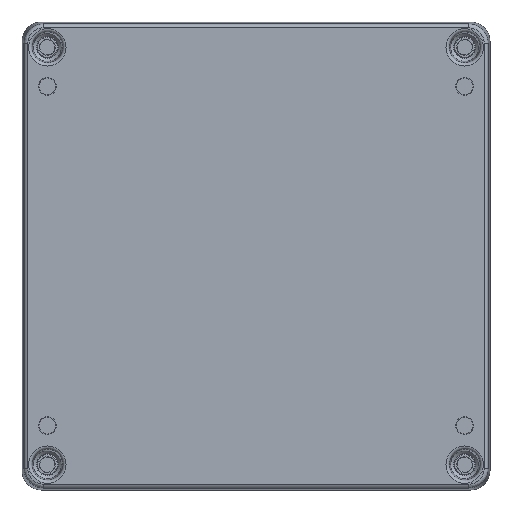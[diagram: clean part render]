
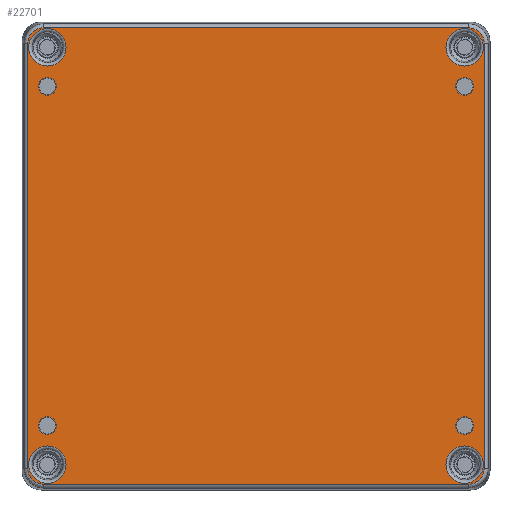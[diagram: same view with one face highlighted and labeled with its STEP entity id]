
A CAD part, front view. The second image highlights one B-rep face of the part: STEP entity #22701.
In plain terms, the highlighted planar face has unit normal (0, -1, 0).
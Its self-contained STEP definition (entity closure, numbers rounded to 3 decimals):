
#127=FACE_BOUND('',#6371,.T.);
#128=FACE_BOUND('',#6372,.T.);
#129=FACE_BOUND('',#6373,.T.);
#130=FACE_BOUND('',#6374,.T.);
#131=FACE_BOUND('',#6375,.T.);
#132=FACE_BOUND('',#6376,.T.);
#133=FACE_BOUND('',#6377,.T.);
#134=FACE_BOUND('',#6378,.T.);
#773=ELLIPSE('',#24311,4.001,4.);
#774=ELLIPSE('',#24312,4.001,4.);
#775=ELLIPSE('',#24313,4.001,4.);
#776=ELLIPSE('',#24314,4.001,4.);
#871=LINE('',#39633,#2578);
#872=LINE('',#39637,#2579);
#873=LINE('',#39641,#2580);
#874=LINE('',#39645,#2581);
#2578=VECTOR('',#26580,10.);
#2579=VECTOR('',#26583,10.);
#2580=VECTOR('',#26586,10.);
#2581=VECTOR('',#26589,10.);
#4267=PLANE('',#24310);
#4977=FACE_OUTER_BOUND('',#6370,.T.);
#6370=EDGE_LOOP('',(#15824,#15825,#15826,#15827,#15828,#15829,#15830,#15831));
#6371=EDGE_LOOP('',(#15832));
#6372=EDGE_LOOP('',(#15833));
#6373=EDGE_LOOP('',(#15834));
#6374=EDGE_LOOP('',(#15835));
#6375=EDGE_LOOP('',(#15836));
#6376=EDGE_LOOP('',(#15837));
#6377=EDGE_LOOP('',(#15838));
#6378=EDGE_LOOP('',(#15839));
#7902=CIRCLE('',#24308,4.787);
#7904=CIRCLE('',#24315,4.787);
#7905=CIRCLE('',#24316,4.787);
#7906=CIRCLE('',#24317,2.258);
#7907=CIRCLE('',#24318,2.258);
#7908=CIRCLE('',#24319,2.258);
#7909=CIRCLE('',#24320,2.258);
#7910=CIRCLE('',#24321,4.787);
#9760=VERTEX_POINT('',#39627);
#9761=VERTEX_POINT('',#39631);
#9762=VERTEX_POINT('',#39632);
#9763=VERTEX_POINT('',#39634);
#9764=VERTEX_POINT('',#39636);
#9765=VERTEX_POINT('',#39638);
#9766=VERTEX_POINT('',#39640);
#9767=VERTEX_POINT('',#39642);
#9768=VERTEX_POINT('',#39644);
#9769=VERTEX_POINT('',#39647);
#9770=VERTEX_POINT('',#39649);
#9771=VERTEX_POINT('',#39651);
#9772=VERTEX_POINT('',#39653);
#9773=VERTEX_POINT('',#39655);
#9774=VERTEX_POINT('',#39657);
#9775=VERTEX_POINT('',#39659);
#12125=EDGE_CURVE('',#9760,#9760,#7902,.T.);
#12127=EDGE_CURVE('',#9761,#9762,#871,.T.);
#12128=EDGE_CURVE('',#9763,#9761,#773,.T.);
#12129=EDGE_CURVE('',#9764,#9763,#872,.T.);
#12130=EDGE_CURVE('',#9765,#9764,#774,.T.);
#12131=EDGE_CURVE('',#9766,#9765,#873,.T.);
#12132=EDGE_CURVE('',#9767,#9766,#775,.T.);
#12133=EDGE_CURVE('',#9768,#9767,#874,.T.);
#12134=EDGE_CURVE('',#9762,#9768,#776,.T.);
#12135=EDGE_CURVE('',#9769,#9769,#7904,.T.);
#12136=EDGE_CURVE('',#9770,#9770,#7905,.T.);
#12137=EDGE_CURVE('',#9771,#9771,#7906,.F.);
#12138=EDGE_CURVE('',#9772,#9772,#7907,.F.);
#12139=EDGE_CURVE('',#9773,#9773,#7908,.F.);
#12140=EDGE_CURVE('',#9774,#9774,#7909,.F.);
#12141=EDGE_CURVE('',#9775,#9775,#7910,.T.);
#15824=ORIENTED_EDGE('',*,*,#12127,.F.);
#15825=ORIENTED_EDGE('',*,*,#12128,.F.);
#15826=ORIENTED_EDGE('',*,*,#12129,.F.);
#15827=ORIENTED_EDGE('',*,*,#12130,.F.);
#15828=ORIENTED_EDGE('',*,*,#12131,.F.);
#15829=ORIENTED_EDGE('',*,*,#12132,.F.);
#15830=ORIENTED_EDGE('',*,*,#12133,.F.);
#15831=ORIENTED_EDGE('',*,*,#12134,.F.);
#15832=ORIENTED_EDGE('',*,*,#12135,.F.);
#15833=ORIENTED_EDGE('',*,*,#12136,.F.);
#15834=ORIENTED_EDGE('',*,*,#12137,.T.);
#15835=ORIENTED_EDGE('',*,*,#12138,.T.);
#15836=ORIENTED_EDGE('',*,*,#12139,.T.);
#15837=ORIENTED_EDGE('',*,*,#12140,.T.);
#15838=ORIENTED_EDGE('',*,*,#12141,.F.);
#15839=ORIENTED_EDGE('',*,*,#12125,.F.);
#22701=ADVANCED_FACE('',(#4977,#127,#128,#129,#130,#131,#132,#133,#134),
#4267,.T.);
#24308=AXIS2_PLACEMENT_3D('',#39628,#26574,#26575);
#24310=AXIS2_PLACEMENT_3D('',#39630,#26578,#26579);
#24311=AXIS2_PLACEMENT_3D('',#39635,#26581,#26582);
#24312=AXIS2_PLACEMENT_3D('',#39639,#26584,#26585);
#24313=AXIS2_PLACEMENT_3D('',#39643,#26587,#26588);
#24314=AXIS2_PLACEMENT_3D('',#39646,#26590,#26591);
#24315=AXIS2_PLACEMENT_3D('',#39648,#26592,#26593);
#24316=AXIS2_PLACEMENT_3D('',#39650,#26594,#26595);
#24317=AXIS2_PLACEMENT_3D('',#39652,#26596,#26597);
#24318=AXIS2_PLACEMENT_3D('',#39654,#26598,#26599);
#24319=AXIS2_PLACEMENT_3D('',#39656,#26600,#26601);
#24320=AXIS2_PLACEMENT_3D('',#39658,#26602,#26603);
#24321=AXIS2_PLACEMENT_3D('',#39660,#26604,#26605);
#26574=DIRECTION('center_axis',(0.,-1.,0.));
#26575=DIRECTION('ref_axis',(-1.,0.,0.));
#26578=DIRECTION('center_axis',(0.,-1.,0.));
#26579=DIRECTION('ref_axis',(0.,0.,-1.));
#26580=DIRECTION('',(1.,0.,0.));
#26581=DIRECTION('center_axis',(0.,1.,0.));
#26582=DIRECTION('ref_axis',(-0.707,0.,0.707));
#26583=DIRECTION('',(0.,0.,1.));
#26584=DIRECTION('center_axis',(0.,1.,0.));
#26585=DIRECTION('ref_axis',(-0.707,0.,-0.707));
#26586=DIRECTION('',(-1.,0.,0.));
#26587=DIRECTION('center_axis',(0.,1.,0.));
#26588=DIRECTION('ref_axis',(0.707,0.,-0.707));
#26589=DIRECTION('',(0.,0.,-1.));
#26590=DIRECTION('center_axis',(0.,1.,0.));
#26591=DIRECTION('ref_axis',(0.707,0.,0.707));
#26592=DIRECTION('center_axis',(0.,-1.,0.));
#26593=DIRECTION('ref_axis',(-1.,0.,0.));
#26594=DIRECTION('center_axis',(0.,-1.,0.));
#26595=DIRECTION('ref_axis',(1.,0.,0.));
#26596=DIRECTION('center_axis',(0.,-1.,0.));
#26597=DIRECTION('ref_axis',(-1.,0.,0.));
#26598=DIRECTION('center_axis',(0.,-1.,0.));
#26599=DIRECTION('ref_axis',(1.,0.,0.));
#26600=DIRECTION('center_axis',(0.,-1.,0.));
#26601=DIRECTION('ref_axis',(-1.,0.,0.));
#26602=DIRECTION('center_axis',(0.,-1.,0.));
#26603=DIRECTION('ref_axis',(1.,0.,0.));
#26604=DIRECTION('center_axis',(0.,-1.,0.));
#26605=DIRECTION('ref_axis',(1.,0.,0.));
#39627=CARTESIAN_POINT('',(-53.5,-30.05,-58.287));
#39628=CARTESIAN_POINT('Origin',(-53.5,-30.05,-53.5));
#39630=CARTESIAN_POINT('Origin',(0.,-30.05,0.));
#39631=CARTESIAN_POINT('',(-54.493,-30.05,58.493));
#39632=CARTESIAN_POINT('',(54.493,-30.05,58.493));
#39633=CARTESIAN_POINT('',(-30.,-30.05,58.493));
#39634=CARTESIAN_POINT('',(-58.493,-30.05,54.493));
#39635=CARTESIAN_POINT('Origin',(-54.492,-30.05,54.492));
#39636=CARTESIAN_POINT('',(-58.493,-30.05,-54.493));
#39637=CARTESIAN_POINT('',(-58.493,-30.05,-30.));
#39638=CARTESIAN_POINT('',(-54.493,-30.05,-58.493));
#39639=CARTESIAN_POINT('Origin',(-54.492,-30.05,-54.492));
#39640=CARTESIAN_POINT('',(54.493,-30.05,-58.493));
#39641=CARTESIAN_POINT('',(30.,-30.05,-58.493));
#39642=CARTESIAN_POINT('',(58.493,-30.05,-54.493));
#39643=CARTESIAN_POINT('Origin',(54.492,-30.05,-54.492));
#39644=CARTESIAN_POINT('',(58.493,-30.05,54.493));
#39645=CARTESIAN_POINT('',(58.493,-30.05,30.));
#39646=CARTESIAN_POINT('Origin',(54.492,-30.05,54.492));
#39647=CARTESIAN_POINT('',(-53.5,-30.05,48.713));
#39648=CARTESIAN_POINT('Origin',(-53.5,-30.05,53.5));
#39649=CARTESIAN_POINT('',(53.5,-30.05,48.713));
#39650=CARTESIAN_POINT('Origin',(53.5,-30.05,53.5));
#39651=CARTESIAN_POINT('',(-51.242,-30.05,-43.5));
#39652=CARTESIAN_POINT('Origin',(-53.5,-30.05,-43.5));
#39653=CARTESIAN_POINT('',(51.242,-30.05,-43.5));
#39654=CARTESIAN_POINT('Origin',(53.5,-30.05,-43.5));
#39655=CARTESIAN_POINT('',(-51.242,-30.05,43.5));
#39656=CARTESIAN_POINT('Origin',(-53.5,-30.05,43.5));
#39657=CARTESIAN_POINT('',(51.242,-30.05,43.5));
#39658=CARTESIAN_POINT('Origin',(53.5,-30.05,43.5));
#39659=CARTESIAN_POINT('',(53.5,-30.05,-58.287));
#39660=CARTESIAN_POINT('Origin',(53.5,-30.05,-53.5));
